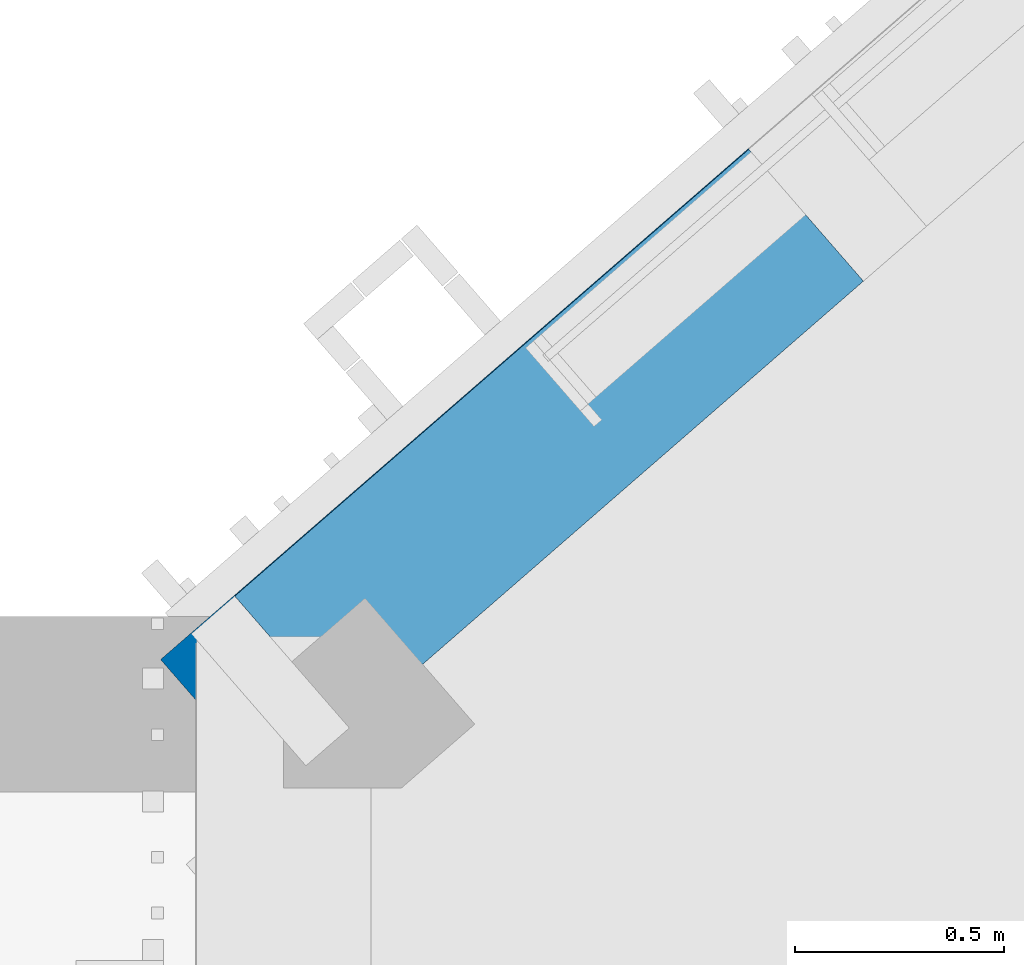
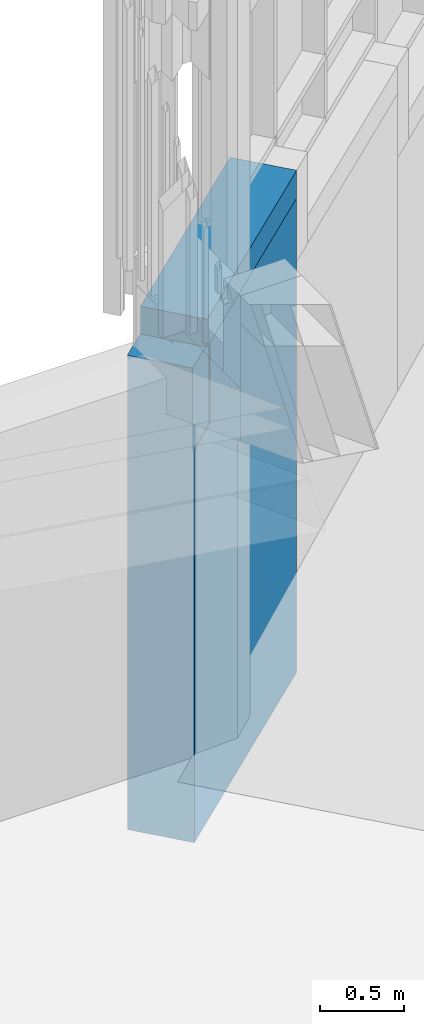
# One storey, part 132 of 390: 2 walls.
"""IFC2X3 building model written with IfcOpenShell, lengths in millimetres."""

from ifc_helpers import new_model, entity, si_unit, converted_unit, derived_unit, money_unit, direction, frame, origin_with_axes, place, context, subcontext, project, spatial, faceted_brep, material, material_list, type_object, element, save


model = new_model("IFC2X3")

# Units and contexts
model_context = context("Model", 3, precision=1e-05, world=origin_with_axes(), true_north=direction((0.0, 1.0)))
body_context = subcontext(model_context, "Body", "Model", "MODEL_VIEW")
ifc_project = project(units=[si_unit("LENGTHUNIT", "METRE", prefix="MILLI"), si_unit("AREAUNIT", "SQUARE_METRE"), si_unit("VOLUMEUNIT", "CUBIC_METRE"), converted_unit("PLANEANGLEUNIT", "DEGREE", entity("IfcPlaneAngleMeasure", 0.0174532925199), si_unit("PLANEANGLEUNIT", "RADIAN"), dimensions=[0, 0, 0, 0, 0, 0, 0]), si_unit("SOLIDANGLEUNIT", "STERADIAN"), money_unit("EUR"), converted_unit("TIMEUNIT", "Year", entity("IfcTimeMeasure", 31556926.0), si_unit("TIMEUNIT", "SECOND"), dimensions=[0, 0, 1, 0, 0, 0, 0]), si_unit("MASSUNIT", "GRAM", prefix="KILO"), si_unit("THERMODYNAMICTEMPERATUREUNIT", "DEGREE_CELSIUS"), si_unit("LUMINOUSINTENSITYUNIT", "LUMEN"), si_unit("ENERGYUNIT", "JOULE", prefix="MEGA"), derived_unit("THERMALCONDUCTANCEUNIT", [(si_unit("POWERUNIT", "WATT"), 1), (si_unit("LENGTHUNIT", "METRE"), -1), (si_unit("THERMODYNAMICTEMPERATUREUNIT", "KELVIN"), -1)]), derived_unit("SPECIFICHEATCAPACITYUNIT", [(si_unit("ENERGYUNIT", "JOULE"), 1), (si_unit("MASSUNIT", "GRAM", prefix="KILO"), -1), (si_unit("THERMODYNAMICTEMPERATUREUNIT", "KELVIN"), -1)]), derived_unit("MASSDENSITYUNIT", [(si_unit("MASSUNIT", "GRAM", prefix="KILO"), 1), (si_unit("VOLUMEUNIT", "CUBIC_METRE"), -1)])], contexts=[model_context])

# Site, building, storey
site_placement = place(None, origin_with_axes())
site = spatial("IfcSite", under=ifc_project, at=site_placement, Name="Site", CompositionType="ELEMENT")
building_placement = place(site_placement, origin_with_axes())
building = spatial("IfcBuilding", under=site, at=building_placement, Name="Building", CompositionType="ELEMENT")
storey_placement = place(building_placement, origin_with_axes())
storey = spatial("IfcBuildingStorey", under=building, at=storey_placement, Name="1 korrus", CompositionType="ELEMENT", Elevation=0.0)

# Walls
ifc_material_1 = material(Name="Krohv - Lubjakivi")
ifc_material_2 = material(Name="Raudbetoon - Konstruktsioon")
ifc_material_3 = material(Name="Soojustus - Plastik Kõva")
ifc_material_4 = material(Name="Membraan - Veekindel")
ifc_material_list_1 = material_list([ifc_material_1, ifc_material_2, ifc_material_3, ifc_material_3, ifc_material_4, ifc_material_4])
wall_type_1 = type_object("IfcWallType", Name="VS-03", PredefinedType="NOTDEFINED")
wall_1_placement = place(storey_placement, frame((124087.753145, 77212.5971406, -1220.0), z_axis=(0.0, 0.0, 1.0), x_axis=(-0.754709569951, -0.656059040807, 0.0)))
element("IfcWall", 1, at=wall_1_placement, inside=storey, type_object=wall_type_1, material=ifc_material_list_1, Name="VS-03", context=body_context, shape_type="Brep", body=[
    faceted_brep([(1863.09163539, -10.0, 2839.91713358), (1565.09550444, -10.0, 2839.91713358), (1565.09550444, -10.0, 3430.0), (0.0, -10.0, 3430.0), (0.0, -10.0, 0.0), (1863.09163539, -10.0, 0.0), (1863.09163539, 0.0, 2839.91713358), (1573.7883721, 0.0, 2839.91713358), (1573.7883721, 0.0, 3430.0), (0.0, 0.0, 3430.0), (0.0, 0.0, 0.0), (1863.09163539, 0.0, 0.0)], [[[0, 1, 2, 3, 4, 5]], [[1, 0, 6, 7]], [[8, 2, 1, 7]], [[2, 8, 9, 3]], [[4, 3, 9, 10]], [[10, 11, 5, 4]], [[6, 0, 5, 11]], [[6, 11, 10, 9, 8, 7]]]),
    faceted_brep([(1863.09163539, -210.0, 3430.0), (1863.09163539, -10.0, 3430.0), (0.0, -10.0, 3430.0), (0.0, -210.0, 3430.0), (1863.09163539, -210.0, 0.0), (1863.09163539, -10.0, 0.0), (0.0, -10.0, 0.0), (0.0, -210.0, 0.0)], [[[0, 1, 2, 3]], [[0, 4, 5, 1]], [[1, 5, 6, 2]], [[3, 2, 6, 7]], [[4, 0, 3, 7]], [[5, 4, 7, 6]]]),
    faceted_brep([(1656.24075366, -210.0, 3430.0), (1615.0774595, -257.352951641, 3430.0), (1560.60412167, -210.0, 3430.0), (0.0, -210.0, 3430.0), (0.0, -360.0, 3430.0), (1863.09163539, -360.0, 3430.0), (1863.09163539, -210.0, 3430.0), (1656.24075366, -210.0, 2839.91713358), (1615.0774595, -257.352951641, 2839.91713358), (1560.60412167, -210.0, 2839.91713358), (1863.09163539, -210.0, 0.0), (0.0, -210.0, 0.0), (0.0, -360.0, 0.0), (1863.09163539, -360.0, 0.0)], [[[0, 1, 2, 3, 4, 5, 6]], [[1, 0, 7, 8]], [[9, 2, 1, 8]], [[7, 0, 6, 10, 11, 3, 2, 9]], [[12, 4, 3, 11]], [[12, 13, 5, 4]], [[6, 5, 13, 10]], [[7, 9, 8]], [[11, 10, 13, 12]]]),
    faceted_brep([(0.0, -410.0, 3430.0), (1863.09163539, -410.0, 3430.0), (1863.09163539, -360.0, 3430.0), (0.0, -360.0, 3430.0), (0.0, -410.0, 0.0), (1863.09163539, -410.0, 0.0), (1863.09163539, -360.0, 0.0), (0.0, -360.0, 0.0)], [[[0, 1, 2, 3]], [[4, 5, 1, 0]], [[2, 1, 5, 6]], [[3, 2, 6, 7]], [[4, 0, 3, 7]], [[7, 6, 5, 4]]]),
    faceted_brep([(0.0, -415.0, 3430.0), (1863.09163539, -415.0, 3430.0), (1863.09163539, -410.0, 3430.0), (0.0, -410.0, 3430.0), (0.0, -415.0, 0.0), (1863.09163539, -415.0, 0.0), (1863.09163539, -410.0, 0.0), (0.0, -410.0, 0.0)], [[[0, 1, 2, 3]], [[4, 5, 1, 0]], [[2, 1, 5, 6]], [[3, 2, 6, 7]], [[4, 0, 3, 7]], [[7, 6, 5, 4]]]),
    faceted_brep([(0.0, -420.0, 3430.0), (1863.09163539, -420.0, 3430.0), (1863.09163539, -415.0, 3430.0), (0.0, -415.0, 3430.0), (0.0, -420.0, 0.0), (1863.09163539, -420.0, 0.0), (1863.09163539, -415.0, 0.0), (0.0, -415.0, 0.0)], [[[0, 1, 2, 3]], [[4, 5, 1, 0]], [[2, 1, 5, 6]], [[3, 2, 6, 7]], [[4, 0, 3, 7]], [[7, 6, 5, 4]]]),
])
ifc_material_5 = material(Name="Plaat - Sein")
ifc_material_list_2 = material_list([ifc_material_5, ifc_material_3, ifc_material_3, ifc_material_2, ifc_material_1])
wall_type_2 = type_object("IfcWallType", Name="VS-05", PredefinedType="NOTDEFINED")
wall_2_placement = place(storey_placement, frame((122857.87228, 76143.4780138, 2210.0), z_axis=(0.0, 0.0, 1.0), x_axis=(0.754709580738, 0.656059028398, 0.0)))
element("IfcWall", 2, at=wall_2_placement, inside=storey, type_object=wall_type_2, material=ifc_material_list_2, Name="VS-05", context=body_context, shape_type="Brep", body=[
    faceted_brep([(1629.60812119, 418.0, 0.0), (1629.60812119, 410.0, 0.0), (0.0, 410.0, 0.0), (0.0, 418.0, 0.0), (1629.60812119, 418.0, 200.0), (1629.60812119, 410.0, 200.0), (0.0, 410.0, 200.0), (0.0, 418.0, 200.0)], [[[0, 1, 2, 3]], [[0, 4, 5, 1]], [[1, 5, 6, 2]], [[3, 2, 6, 7]], [[4, 0, 3, 7]], [[5, 4, 7, 6]]]),
    faceted_brep([(1629.60812119, 410.0, 0.0), (1629.60812119, 360.0, 0.0), (0.0, 360.0, 0.0), (0.0, 410.0, 0.0), (1629.60812119, 410.0, 200.0), (1629.60812119, 360.0, 200.0), (0.0, 360.0, 200.0), (0.0, 410.0, 200.0)], [[[0, 1, 2, 3]], [[0, 4, 5, 1]], [[1, 5, 6, 2]], [[3, 2, 6, 7]], [[4, 0, 3, 7]], [[5, 4, 7, 6]]]),
    faceted_brep([(1629.60812119, 360.0, 0.0), (1629.60812119, 210.0, 0.0), (0.0, 210.0, 0.0), (0.0, 360.0, 0.0), (1629.60812119, 360.0, 200.0), (1629.60812119, 210.0, 200.0), (0.0, 210.0, 200.0), (0.0, 360.0, 200.0)], [[[0, 1, 2, 3]], [[0, 4, 5, 1]], [[1, 5, 6, 2]], [[3, 2, 6, 7]], [[4, 0, 3, 7]], [[5, 4, 7, 6]]]),
    faceted_brep([(1629.60812119, 210.0, 0.0), (1629.60812119, 10.0, 0.0), (0.0, 10.0, 0.0), (0.0, 210.0, 0.0), (1629.60812119, 210.0, 200.0), (1629.60812119, 10.0, 200.0), (0.0, 10.0, 200.0), (0.0, 210.0, 200.0)], [[[0, 1, 2, 3]], [[0, 4, 5, 1]], [[1, 5, 6, 2]], [[3, 2, 6, 7]], [[4, 0, 3, 7]], [[5, 4, 7, 6]]]),
    faceted_brep([(1629.60812119, 10.0, 0.0), (1629.60812119, 0.0, 0.0), (0.0, 0.0, 0.0), (0.0, 10.0, 0.0), (1629.60812119, 10.0, 200.0), (1629.60812119, 0.0, 200.0), (0.0, 0.0, 200.0), (0.0, 10.0, 200.0)], [[[0, 1, 2, 3]], [[0, 4, 5, 1]], [[1, 5, 6, 2]], [[3, 2, 6, 7]], [[4, 0, 3, 7]], [[5, 4, 7, 6]]]),
])

save(model, "model.ifc")
